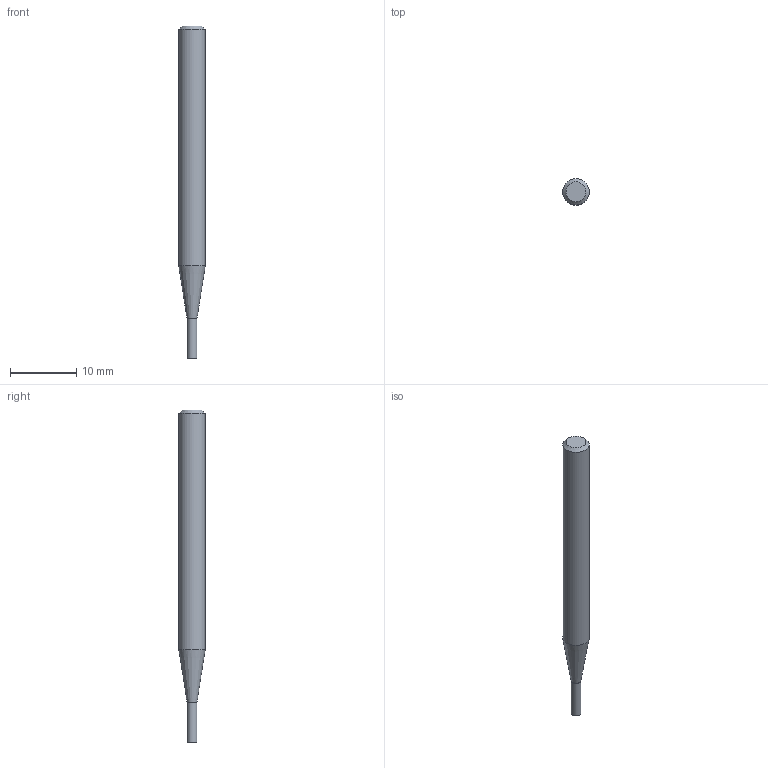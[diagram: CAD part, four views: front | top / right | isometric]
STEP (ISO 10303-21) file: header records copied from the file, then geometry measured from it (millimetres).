
FILE_DESCRIPTION((''),'2;1');
FILE_NAME('C:\Users\nsx150\AppData\Local\Temp\Mastercam 2021\W9Z147XDNF\TEMP.step','2021-04-08T14:48:25',(''),(''),'STEP Write','Mastercam 2021 ... CNC Software, Inc.','');
FILE_SCHEMA(('AUTOMOTIVE_DESIGN'));
Length unit declared in the file: millimetre
Products named in the file (1): None
Bounding box: 4 x 4 x 50 mm (x, y, z)
Volume: 513 mm3; surface area: 564.9 mm2
Topology: 2 solids, 2 shells, 8 faces, 10 edges, 6 vertices
Faces by surface type: plane 4, cylinder 2, cone 2
Full cylindrical faces by diameter (mm): 1.5 x1, 4 x1
Entity records: 190 total; most frequent: DIRECTION 32, CARTESIAN_POINT 22, AXIS2_PLACEMENT_3D 16, ORIENTED_EDGE 12, EDGE_LOOP 12, STYLED_ITEM 11, ADVANCED_FACE 8, VERTEX_POINT 6
